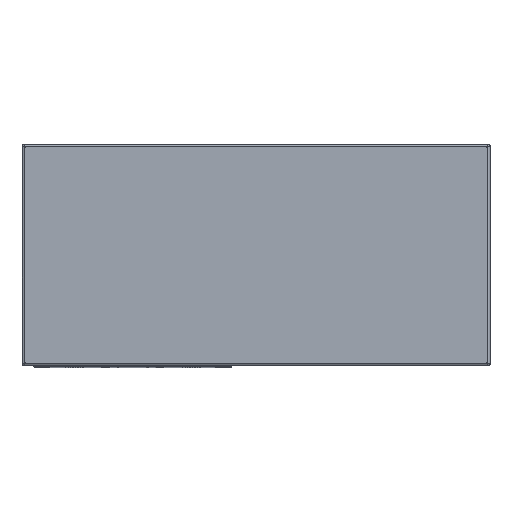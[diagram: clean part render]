
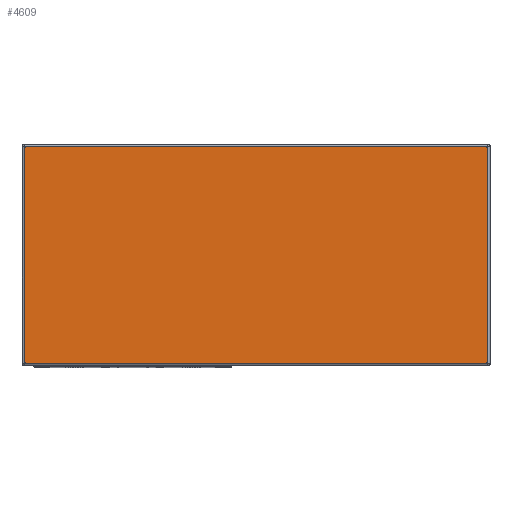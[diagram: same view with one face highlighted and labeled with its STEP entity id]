
A CAD part, top view. The second image highlights one B-rep face of the part: STEP entity #4609.
In plain terms, the highlighted planar face has unit normal (0, 0, 1).
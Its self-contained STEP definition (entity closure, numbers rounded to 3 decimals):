
#1485 = CARTESIAN_POINT ( 'NONE',  ( 144., -44., 471. ) ) ;
#1956 = VECTOR ( 'NONE', #30345, 1000. ) ;
#2711 = CARTESIAN_POINT ( 'NONE',  ( -44., -45., 471. ) ) ;
#4416 = ORIENTED_EDGE ( 'NONE', *, *, #15797, .T. ) ;
#4609 = ADVANCED_FACE ( 'NONE', ( #20020 ), #18814, .T. ) ;
#5824 = DIRECTION ( 'NONE',  ( 0., 0., 1. ) ) ;
#6209 = VECTOR ( 'NONE', #12850, 1000. ) ;
#6972 = EDGE_LOOP ( 'NONE', ( #12268, #31595, #4416, #18612 ) ) ;
#8726 = CARTESIAN_POINT ( 'NONE',  ( -45., 44., 471. ) ) ;
#9340 = VERTEX_POINT ( 'NONE', #21676 ) ;
#10688 = LINE ( 'NONE', #8726, #30669 ) ;
#11651 = EDGE_CURVE ( 'NONE', #22030, #30095, #13123, .T. ) ;
#12084 = CARTESIAN_POINT ( 'NONE',  ( 145., -44., 471. ) ) ;
#12177 = LINE ( 'NONE', #2711, #26916 ) ;
#12268 = ORIENTED_EDGE ( 'NONE', *, *, #20304, .T. ) ;
#12850 = DIRECTION ( 'NONE',  ( 0., 1., 0. ) ) ;
#13123 = LINE ( 'NONE', #20608, #6209 ) ;
#15797 = EDGE_CURVE ( 'NONE', #30095, #9340, #10688, .T. ) ;
#16548 = DIRECTION ( 'NONE',  ( -1., 0., 0. ) ) ;
#16970 = CARTESIAN_POINT ( 'NONE',  ( 144., 44., 471. ) ) ;
#18256 = EDGE_CURVE ( 'NONE', #9340, #32117, #12177, .T. ) ;
#18612 = ORIENTED_EDGE ( 'NONE', *, *, #18256, .T. ) ;
#18814 = PLANE ( 'NONE',  #27538 ) ;
#20020 = FACE_OUTER_BOUND ( 'NONE', #6972, .T. ) ;
#20304 = EDGE_CURVE ( 'NONE', #32117, #22030, #23689, .T. ) ;
#20608 = CARTESIAN_POINT ( 'NONE',  ( 144., 45., 471. ) ) ;
#21676 = CARTESIAN_POINT ( 'NONE',  ( -44., 44., 471. ) ) ;
#22030 = VERTEX_POINT ( 'NONE', #1485 ) ;
#23689 = LINE ( 'NONE', #12084, #1956 ) ;
#24093 = DIRECTION ( 'NONE',  ( 1., 0., 0. ) ) ;
#26916 = VECTOR ( 'NONE', #31415, 1000. ) ;
#27538 = AXIS2_PLACEMENT_3D ( 'NONE', #31849, #5824, #24093 ) ;
#29776 = CARTESIAN_POINT ( 'NONE',  ( -44., -44., 471. ) ) ;
#30095 = VERTEX_POINT ( 'NONE', #16970 ) ;
#30345 = DIRECTION ( 'NONE',  ( 1., 0., 0. ) ) ;
#30669 = VECTOR ( 'NONE', #16548, 1000. ) ;
#31415 = DIRECTION ( 'NONE',  ( 0., -1., 0. ) ) ;
#31595 = ORIENTED_EDGE ( 'NONE', *, *, #11651, .T. ) ;
#31849 = CARTESIAN_POINT ( 'NONE',  ( 0., 0., 471. ) ) ;
#32117 = VERTEX_POINT ( 'NONE', #29776 ) ;
